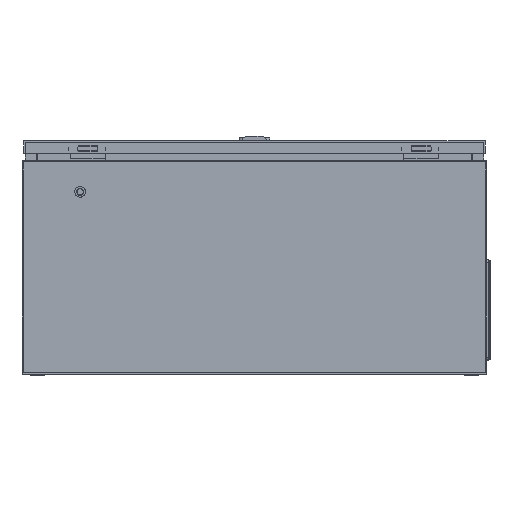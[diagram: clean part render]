
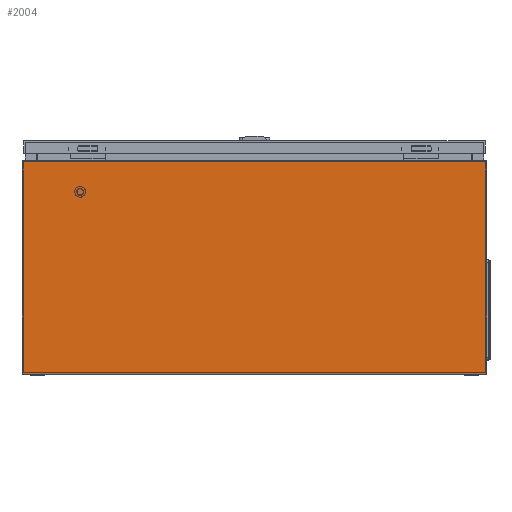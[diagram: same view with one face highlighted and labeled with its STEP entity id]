
A CAD part, left-side view. The second image highlights one B-rep face of the part: STEP entity #2004.
In plain terms, the highlighted planar face has unit normal (-1, 0, 0).
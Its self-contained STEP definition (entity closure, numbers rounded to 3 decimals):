
#2004 = ADVANCED_FACE( '', ( #4213 ), #4214, .F. );
#4213 = FACE_OUTER_BOUND( '', #6687, .T. );
#4214 = PLANE( '', #6688 );
#6687 = EDGE_LOOP( '', ( #11523, #11524, #11525, #11526 ) );
#6688 = AXIS2_PLACEMENT_3D( '', #11527, #11528, #11529 );
#11523 = ORIENTED_EDGE( '', *, *, #15387, .T. );
#11524 = ORIENTED_EDGE( '', *, *, #14461, .F. );
#11525 = ORIENTED_EDGE( '', *, *, #15204, .F. );
#11526 = ORIENTED_EDGE( '', *, *, #15388, .T. );
#11527 = CARTESIAN_POINT( '', ( -400., 600., -150. ) );
#11528 = DIRECTION( '', ( 1., 0., 0. ) );
#11529 = DIRECTION( '', ( 0., 0., -1. ) );
#14461 = EDGE_CURVE( '', #17447, #17449, #17450, .T. );
#15204 = EDGE_CURVE( '', #18518, #17447, #18519, .T. );
#15387 = EDGE_CURVE( '', #18751, #17449, #18752, .T. );
#15388 = EDGE_CURVE( '', #18518, #18751, #18753, .T. );
#17447 = VERTEX_POINT( '', #21563 );
#17449 = VERTEX_POINT( '', #21566 );
#17450 = LINE( '', #21567, #21568 );
#18518 = VERTEX_POINT( '', #23166 );
#18519 = LINE( '', #23167, #23168 );
#18751 = VERTEX_POINT( '', #23526 );
#18752 = LINE( '', #23527, #23528 );
#18753 = LINE( '', #23529, #23530 );
#21563 = CARTESIAN_POINT( '', ( -400., 600., 125.2 ) );
#21566 = CARTESIAN_POINT( '', ( -400., 0., 125.2 ) );
#21567 = CARTESIAN_POINT( '', ( -400., 600., 125.2 ) );
#21568 = VECTOR( '', #25319, 1000. );
#23166 = CARTESIAN_POINT( '', ( -400., 600., -150. ) );
#23167 = CARTESIAN_POINT( '', ( -400., 600., -150. ) );
#23168 = VECTOR( '', #26128, 1000. );
#23526 = CARTESIAN_POINT( '', ( -400., 0., -150. ) );
#23527 = CARTESIAN_POINT( '', ( -400., 0., -150. ) );
#23528 = VECTOR( '', #26295, 1000. );
#23529 = CARTESIAN_POINT( '', ( -400., 600., -150. ) );
#23530 = VECTOR( '', #26296, 1000. );
#25319 = DIRECTION( '', ( 0., -1., 0. ) );
#26128 = DIRECTION( '', ( 0., 0., 1. ) );
#26295 = DIRECTION( '', ( 0., 0., 1. ) );
#26296 = DIRECTION( '', ( 0., -1., 0. ) );
